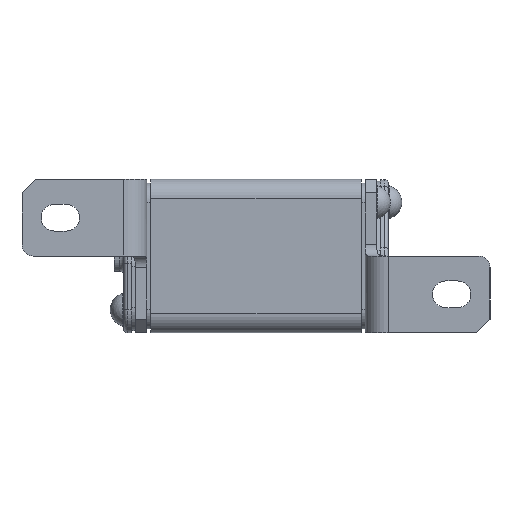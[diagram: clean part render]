
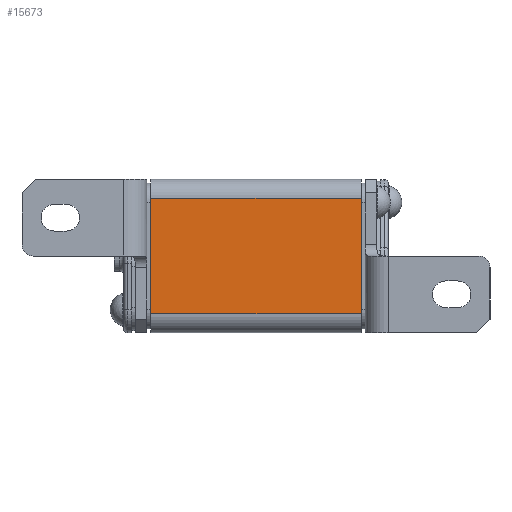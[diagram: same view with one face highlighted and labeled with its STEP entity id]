
A CAD part, front view. The second image highlights one B-rep face of the part: STEP entity #15673.
In plain terms, the highlighted planar face has unit normal (0, -1, 0).
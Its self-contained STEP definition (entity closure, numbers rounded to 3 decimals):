
#965 = CARTESIAN_POINT ( 'NONE',  ( 55., -20., -15. ) ) ;
#1759 = VECTOR ( 'NONE', #3367, 1000. ) ;
#1763 = DIRECTION ( 'NONE',  ( 0., 0., 1. ) ) ;
#1792 = ORIENTED_EDGE ( 'NONE', *, *, #13262, .T. ) ;
#2087 = CARTESIAN_POINT ( 'NONE',  ( 55., -20., -20. ) ) ;
#3018 = EDGE_CURVE ( 'NONE', #3411, #13310, #10063, .T. ) ;
#3327 = DIRECTION ( 'NONE',  ( 0., -1., 0. ) ) ;
#3367 = DIRECTION ( 'NONE',  ( 0., 0., 1. ) ) ;
#3411 = VERTEX_POINT ( 'NONE', #9570 ) ;
#3459 = DIRECTION ( 'NONE',  ( 1., 0., 0. ) ) ;
#3865 = CARTESIAN_POINT ( 'NONE',  ( 0., -20., 15. ) ) ;
#5529 = LINE ( 'NONE', #11996, #13089 ) ;
#5761 = ORIENTED_EDGE ( 'NONE', *, *, #3018, .T. ) ;
#6778 = CARTESIAN_POINT ( 'NONE',  ( 0., -20., -15. ) ) ;
#7233 = CARTESIAN_POINT ( 'NONE',  ( 55., -20., 15. ) ) ;
#7268 = FACE_OUTER_BOUND ( 'NONE', #14063, .T. ) ;
#7370 = CARTESIAN_POINT ( 'NONE',  ( 55., -20., -20. ) ) ;
#7452 = VECTOR ( 'NONE', #8107, 1000. ) ;
#8107 = DIRECTION ( 'NONE',  ( -1., 0., 0. ) ) ;
#9456 = CARTESIAN_POINT ( 'NONE',  ( 55., -20., 15. ) ) ;
#9570 = CARTESIAN_POINT ( 'NONE',  ( 55., -20., -15. ) ) ;
#9678 = VECTOR ( 'NONE', #3459, 1000. ) ;
#9886 = ORIENTED_EDGE ( 'NONE', *, *, #14963, .F. ) ;
#10063 = LINE ( 'NONE', #7370, #1759 ) ;
#11467 = AXIS2_PLACEMENT_3D ( 'NONE', #2087, #3327, #12475 ) ;
#11751 = LINE ( 'NONE', #7233, #7452 ) ;
#11996 = CARTESIAN_POINT ( 'NONE',  ( 0., -20., -20. ) ) ;
#12475 = DIRECTION ( 'NONE',  ( 1., 0., 0. ) ) ;
#12695 = VERTEX_POINT ( 'NONE', #6778 ) ;
#12820 = ORIENTED_EDGE ( 'NONE', *, *, #13358, .T. ) ;
#13089 = VECTOR ( 'NONE', #1763, 1000. ) ;
#13199 = LINE ( 'NONE', #965, #9678 ) ;
#13262 = EDGE_CURVE ( 'NONE', #13310, #14852, #11751, .T. ) ;
#13310 = VERTEX_POINT ( 'NONE', #9456 ) ;
#13358 = EDGE_CURVE ( 'NONE', #12695, #3411, #13199, .T. ) ;
#14063 = EDGE_LOOP ( 'NONE', ( #5761, #1792, #9886, #12820 ) ) ;
#14852 = VERTEX_POINT ( 'NONE', #3865 ) ;
#14963 = EDGE_CURVE ( 'NONE', #12695, #14852, #5529, .T. ) ;
#15084 = PLANE ( 'NONE',  #11467 ) ;
#15673 = ADVANCED_FACE ( 'NONE', ( #7268 ), #15084, .T. ) ;
